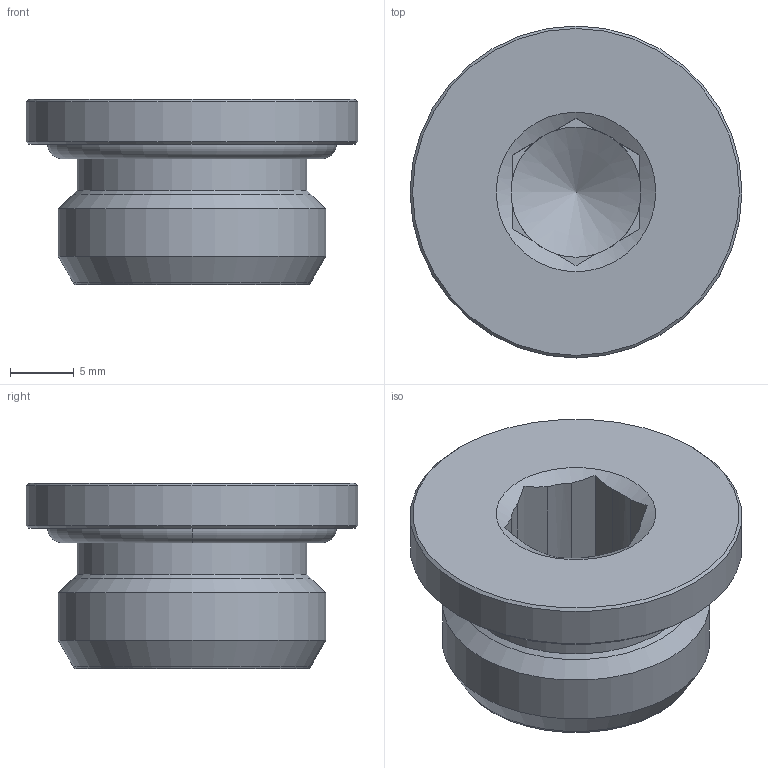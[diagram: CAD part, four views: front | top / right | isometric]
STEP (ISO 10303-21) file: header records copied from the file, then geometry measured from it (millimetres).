
FILE_DESCRIPTION(('Bauteilbeschreibung','HiCAD-Model','HiCAD-STEP-TRANSLATION','Bauteilbeschreibung'),'2;1');
FILE_NAME('B:/ABGLEICH/ZEICHNUNGEN/STEP FÜR INTERNET/STEP/107-OR/30155_107-OR_1-2.STP','2012-08-09T10:09:11+00:00',('Konstrukteur'),('Konstrukteur Firma GmbH'),' HiCAD neXt 2008, Step 3.1.1401.2J ','HiCAD neXt 2008','confidential');
FILE_SCHEMA(('AUTOMOTIVE_DESIGN { 1 2 10303 214 0 1 1 1 }'));
Length unit declared in the file: millimetre
Products named in the file (5): A0155_107_OR_1_2; A0155; A01550; G 1_2; OR 17_12X2_62
Assembly tree (4 placements, depth 3):
  A0155_107_OR_1_2
    A0155
    A01550
      G 1_2
    OR 17_12X2_62
Bounding box: 26 x 26 x 14.5 mm (x, y, z)
Volume: 4357.1 mm3; surface area: 3763.1 mm2
Topology: 3 solids, 3 shells, 43 faces, 105 edges, 66 vertices
Faces by surface type: plane 22, cone 9, cylinder 6, torus 6
Full cylindrical faces by diameter (mm): 10.2 x1, 18 x1, 18.631 x2, 20.955 x1, 26 x1
Entity records: 1607 total; most frequent: CARTESIAN_POINT 216, DIRECTION 210, ORIENTED_EDGE 162, AXIS2_PLACEMENT_3D 90, EDGE_CURVE 81, COLOUR_RGB 76, PRESENTATION_STYLE_ASSIGNMENT 76, CURVE_STYLE 73
